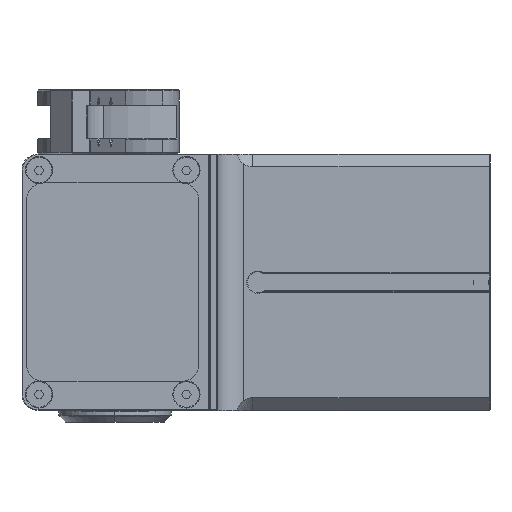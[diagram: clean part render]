
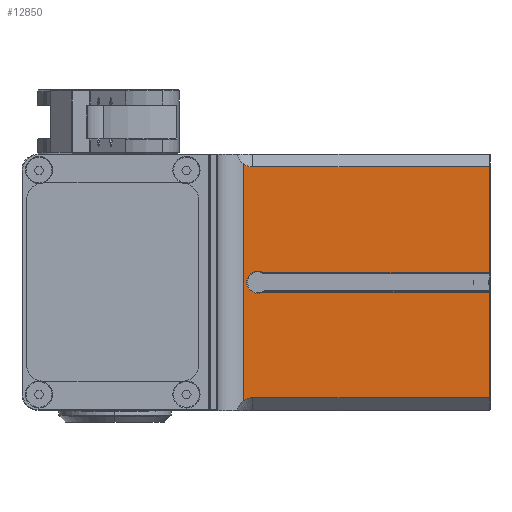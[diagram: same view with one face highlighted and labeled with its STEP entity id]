
A CAD part, left-side view. The second image highlights one B-rep face of the part: STEP entity #12850.
In plain terms, the highlighted planar face has unit normal (-1, 0, 0).
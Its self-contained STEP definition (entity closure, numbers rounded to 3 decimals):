
#333 = VECTOR ( 'NONE', #2522, 1000. ) ;
#383 = CARTESIAN_POINT ( 'NONE',  ( -40., 0.2, 4. ) ) ;
#438 = ORIENTED_EDGE ( 'NONE', *, *, #8658, .T. ) ;
#570 = CARTESIAN_POINT ( 'NONE',  ( -40., 0.2, 37.2 ) ) ;
#995 = CIRCLE ( 'NONE', #7527, 3.475 ) ;
#1678 = CARTESIAN_POINT ( 'NONE',  ( -40., 70.342, 37.2 ) ) ;
#1776 = AXIS2_PLACEMENT_3D ( 'NONE', #2699, #12176, #5849 ) ;
#2348 = AXIS2_PLACEMENT_3D ( 'NONE', #11766, #5441, #18001 ) ;
#2522 = DIRECTION ( 'NONE',  ( 0., -1., 0. ) ) ;
#2699 = CARTESIAN_POINT ( 'NONE',  ( -40., 72.4, 40. ) ) ;
#2908 = CARTESIAN_POINT ( 'NONE',  ( -40., 0., 42.6 ) ) ;
#2949 = VECTOR ( 'NONE', #14113, 1000. ) ;
#3087 = VERTEX_POINT ( 'NONE', #17838 ) ;
#3092 = CARTESIAN_POINT ( 'NONE',  ( -40., 74., 4. ) ) ;
#3169 = VECTOR ( 'NONE', #9129, 1000. ) ;
#3384 = DIRECTION ( 'NONE',  ( 0., 1., 0. ) ) ;
#3565 = DIRECTION ( 'NONE',  ( 0., 0., 1. ) ) ;
#3749 = EDGE_CURVE ( 'NONE', #7381, #16897, #9421, .T. ) ;
#3839 = EDGE_CURVE ( 'NONE', #16897, #12422, #995, .T. ) ;
#4281 = LINE ( 'NONE', #12137, #12906 ) ;
#4856 = VERTEX_POINT ( 'NONE', #12069 ) ;
#5326 = DIRECTION ( 'NONE',  ( 1., 0., 0. ) ) ;
#5441 = DIRECTION ( 'NONE',  ( 1., 0., 0. ) ) ;
#5752 = VERTEX_POINT ( 'NONE', #383 ) ;
#5849 = DIRECTION ( 'NONE',  ( 0., 1., 0. ) ) ;
#5924 = CIRCLE ( 'NONE', #2348, 3.475 ) ;
#6043 = CARTESIAN_POINT ( 'NONE',  ( -40., 74.537, 4. ) ) ;
#6204 = EDGE_CURVE ( 'NONE', #3087, #15132, #7088, .T. ) ;
#6355 = ORIENTED_EDGE ( 'NONE', *, *, #11831, .T. ) ;
#6994 = CARTESIAN_POINT ( 'NONE',  ( -40., 75.072, 76.087 ) ) ;
#7088 = B_SPLINE_CURVE_WITH_KNOTS ( 'NONE', 3,
 ( #8925, #7296, #16676, #6994, #11989, #19464 ),
 .UNSPECIFIED., .F., .F.,
 ( 4, 2, 4 ),
 ( 0., 0.002, 0.003 ),
 .UNSPECIFIED. ) ;
#7272 = CARTESIAN_POINT ( 'NONE',  ( -40., 72.4, 36.525 ) ) ;
#7296 = CARTESIAN_POINT ( 'NONE',  ( -40., 76.57, 76.678 ) ) ;
#7381 = VERTEX_POINT ( 'NONE', #570 ) ;
#7527 = AXIS2_PLACEMENT_3D ( 'NONE', #11865, #5326, #17685 ) ;
#7773 = EDGE_CURVE ( 'NONE', #12422, #19505, #5924, .T. ) ;
#7958 = EDGE_CURVE ( 'NONE', #5752, #7381, #12169, .T. ) ;
#8022 = EDGE_CURVE ( 'NONE', #18648, #4856, #9705, .T. ) ;
#8178 = ORIENTED_EDGE ( 'NONE', *, *, #16298, .T. ) ;
#8625 = ORIENTED_EDGE ( 'NONE', *, *, #8022, .T. ) ;
#8635 = CARTESIAN_POINT ( 'NONE',  ( -40., 85., 4. ) ) ;
#8658 = EDGE_CURVE ( 'NONE', #4856, #5752, #8935, .T. ) ;
#8884 = ORIENTED_EDGE ( 'NONE', *, *, #6204, .F. ) ;
#8925 = CARTESIAN_POINT ( 'NONE',  ( -40., 77., 77. ) ) ;
#8935 = LINE ( 'NONE', #8635, #333 ) ;
#9071 = CARTESIAN_POINT ( 'NONE',  ( -40., 0.2, 76. ) ) ;
#9129 = DIRECTION ( 'NONE',  ( 0., -1., 0. ) ) ;
#9356 = CARTESIAN_POINT ( 'NONE',  ( -40., 70.094, 42.6 ) ) ;
#9421 = LINE ( 'NONE', #15755, #2949 ) ;
#9634 = CIRCLE ( 'NONE', #1776, 3.475 ) ;
#9705 = B_SPLINE_CURVE_WITH_KNOTS ( 'NONE', 3,
 ( #10924, #18299, #20046, #14097, #6043, #3092 ),
 .UNSPECIFIED., .F., .F.,
 ( 4, 2, 4 ),
 ( 0., 0.002, 0.003 ),
 .UNSPECIFIED. ) ;
#9786 = CARTESIAN_POINT ( 'NONE',  ( -40., 77., 3. ) ) ;
#10349 = CARTESIAN_POINT ( 'NONE',  ( -40., 74., 76. ) ) ;
#10413 = EDGE_LOOP ( 'NONE', ( #438, #18915, #12350, #14004, #14974, #17566, #14012, #6355, #12335, #8884, #8178, #8625 ) ) ;
#10764 = VERTEX_POINT ( 'NONE', #15154 ) ;
#10829 = DIRECTION ( 'NONE',  ( 0., 0., 1. ) ) ;
#10924 = CARTESIAN_POINT ( 'NONE',  ( -40., 77., 3. ) ) ;
#11320 = PLANE ( 'NONE',  #16811 ) ;
#11453 = EDGE_CURVE ( 'NONE', #15132, #13203, #4281, .T. ) ;
#11766 = CARTESIAN_POINT ( 'NONE',  ( -40., 72.4, 40. ) ) ;
#11831 = EDGE_CURVE ( 'NONE', #10764, #13203, #12946, .T. ) ;
#11865 = CARTESIAN_POINT ( 'NONE',  ( -40., 72.4, 40. ) ) ;
#11989 = CARTESIAN_POINT ( 'NONE',  ( -40., 74.537, 76. ) ) ;
#12069 = CARTESIAN_POINT ( 'NONE',  ( -40., 74., 4. ) ) ;
#12137 = CARTESIAN_POINT ( 'NONE',  ( -40., 85., 76. ) ) ;
#12169 = LINE ( 'NONE', #19944, #14686 ) ;
#12176 = DIRECTION ( 'NONE',  ( 1., 0., 0. ) ) ;
#12335 = ORIENTED_EDGE ( 'NONE', *, *, #11453, .F. ) ;
#12350 = ORIENTED_EDGE ( 'NONE', *, *, #3749, .T. ) ;
#12422 = VERTEX_POINT ( 'NONE', #7272 ) ;
#12850 = ADVANCED_FACE ( 'NONE', ( #17346 ), #11320, .F. ) ;
#12906 = VECTOR ( 'NONE', #19710, 1000. ) ;
#12946 = LINE ( 'NONE', #17531, #16758 ) ;
#13203 = VERTEX_POINT ( 'NONE', #9071 ) ;
#13223 = CARTESIAN_POINT ( 'NONE',  ( -40., 77., 0. ) ) ;
#14004 = ORIENTED_EDGE ( 'NONE', *, *, #3839, .T. ) ;
#14012 = ORIENTED_EDGE ( 'NONE', *, *, #15332, .T. ) ;
#14097 = CARTESIAN_POINT ( 'NONE',  ( -40., 75.072, 3.913 ) ) ;
#14113 = DIRECTION ( 'NONE',  ( 0., 1., 0. ) ) ;
#14387 = DIRECTION ( 'NONE',  ( 1., 0., 0. ) ) ;
#14686 = VECTOR ( 'NONE', #10829, 1000. ) ;
#14974 = ORIENTED_EDGE ( 'NONE', *, *, #7773, .T. ) ;
#15132 = VERTEX_POINT ( 'NONE', #10349 ) ;
#15154 = CARTESIAN_POINT ( 'NONE',  ( -40., 0.2, 42.6 ) ) ;
#15332 = EDGE_CURVE ( 'NONE', #16589, #10764, #16874, .T. ) ;
#15755 = CARTESIAN_POINT ( 'NONE',  ( -40., 70.409, 37.2 ) ) ;
#16018 = CARTESIAN_POINT ( 'NONE',  ( -40., 85., 80. ) ) ;
#16214 = VECTOR ( 'NONE', #17922, 1000. ) ;
#16298 = EDGE_CURVE ( 'NONE', #3087, #18648, #18023, .T. ) ;
#16589 = VERTEX_POINT ( 'NONE', #9356 ) ;
#16676 = CARTESIAN_POINT ( 'NONE',  ( -40., 76.091, 76.427 ) ) ;
#16758 = VECTOR ( 'NONE', #3565, 1000. ) ;
#16811 = AXIS2_PLACEMENT_3D ( 'NONE', #16018, #14387, #3384 ) ;
#16874 = LINE ( 'NONE', #2908, #3169 ) ;
#16897 = VERTEX_POINT ( 'NONE', #1678 ) ;
#17346 = FACE_OUTER_BOUND ( 'NONE', #10413, .T. ) ;
#17531 = CARTESIAN_POINT ( 'NONE',  ( -40., 0.2, 80. ) ) ;
#17566 = ORIENTED_EDGE ( 'NONE', *, *, #19172, .T. ) ;
#17685 = DIRECTION ( 'NONE',  ( 0., 1., 0. ) ) ;
#17838 = CARTESIAN_POINT ( 'NONE',  ( -40., 77., 77. ) ) ;
#17922 = DIRECTION ( 'NONE',  ( 0., 0., -1. ) ) ;
#18001 = DIRECTION ( 'NONE',  ( 0., 1., 0. ) ) ;
#18023 = LINE ( 'NONE', #13223, #16214 ) ;
#18084 = CARTESIAN_POINT ( 'NONE',  ( -40., 72.4, 43.475 ) ) ;
#18299 = CARTESIAN_POINT ( 'NONE',  ( -40., 76.57, 3.322 ) ) ;
#18648 = VERTEX_POINT ( 'NONE', #9786 ) ;
#18915 = ORIENTED_EDGE ( 'NONE', *, *, #7958, .T. ) ;
#19172 = EDGE_CURVE ( 'NONE', #19505, #16589, #9634, .T. ) ;
#19464 = CARTESIAN_POINT ( 'NONE',  ( -40., 74., 76. ) ) ;
#19505 = VERTEX_POINT ( 'NONE', #18084 ) ;
#19710 = DIRECTION ( 'NONE',  ( 0., -1., 0. ) ) ;
#19944 = CARTESIAN_POINT ( 'NONE',  ( -40., 0.2, 80. ) ) ;
#20046 = CARTESIAN_POINT ( 'NONE',  ( -40., 76.091, 3.573 ) ) ;
